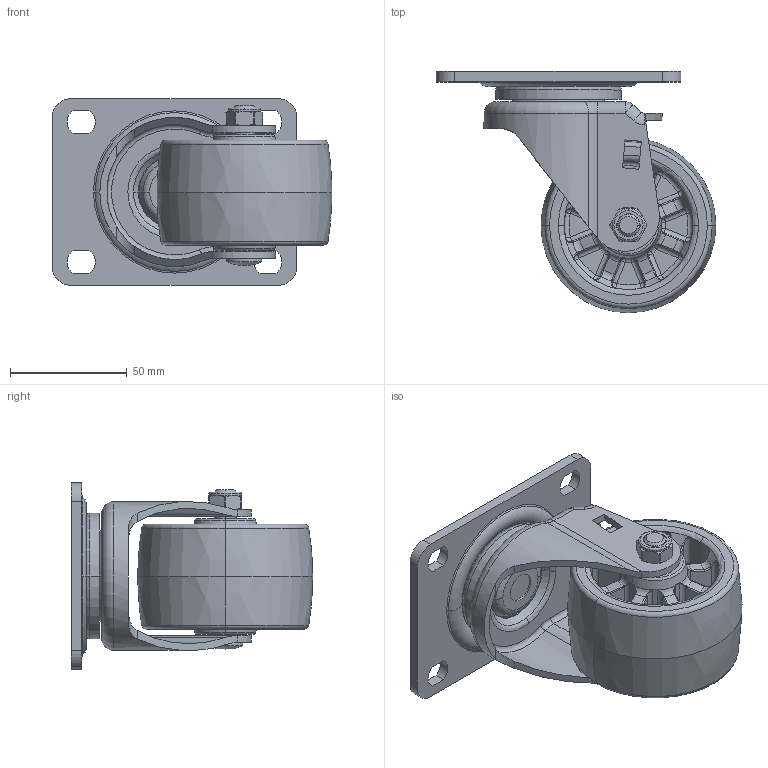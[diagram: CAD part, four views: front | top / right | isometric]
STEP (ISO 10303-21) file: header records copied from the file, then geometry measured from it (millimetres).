
FILE_DESCRIPTION((''),'2;1');
FILE_NAME('6213-03_ASM','2023-01-09T',('lenovo'),(''),'PRO/ENGINEER BY PARAMETRIC TECHNOLOGY CORPORATION, 2010280','PRO/ENGINEER BY PARAMETRIC TECHNOLOGY CORPORATION, 2010280','');
FILE_SCHEMA(('CONFIG_CONTROL_DESIGN'));
Length unit declared in the file: millimetre
Products named in the file (8): 623-11; 620-03; 620-01; 620-33; 623-903; 620-31; 570-34; 6213-03_ASM
Assembly tree (7 placements, depth 2):
  6213-03_ASM
    623-11
    620-03
    620-01
    620-33
    623-903
    620-31
    570-34
Bounding box: 120 x 103.5 x 80 mm (x, y, z)
Volume: 222933.1 mm3; surface area: 78937.8 mm2
Topology: 7 solids, 7 shells, 856 faces, 2066 edges, 1171 vertices
Faces by surface type: cylinder 235, bspline 196, torus 162, plane 121, cone 72, sphere 70
Entity records: 32569 total; most frequent: CARTESIAN_POINT 14425, ORIENTED_EDGE 4000, DIRECTION 3526, EDGE_CURVE 2000, AXIS2_PLACEMENT_3D 1543, VERTEX_POINT 1171, EDGE_LOOP 893, CIRCLE 868
